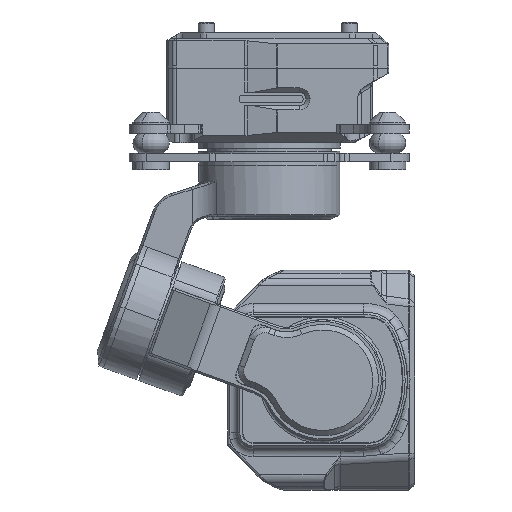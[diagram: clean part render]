
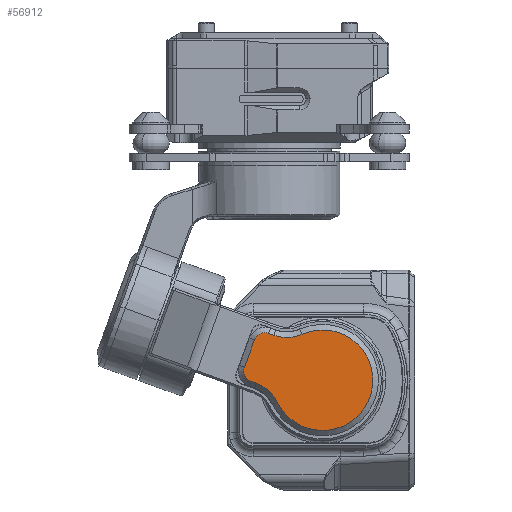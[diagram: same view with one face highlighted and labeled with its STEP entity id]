
A CAD part, front view. The second image highlights one B-rep face of the part: STEP entity #56912.
In plain terms, the highlighted planar face has unit normal (0, -1, 0).
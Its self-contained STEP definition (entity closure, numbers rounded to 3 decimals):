
#56844=AXIS2_PLACEMENT_3D('Plane Axis2P3D',#56841,#56842,#56843) ;
#56848=AXIS2_PLACEMENT_3D('Circle Axis2P3D',#56846,#56847,$) ;
#56864=AXIS2_PLACEMENT_3D('Circle Axis2P3D',#56862,#56863,$) ;
#56878=AXIS2_PLACEMENT_3D('Circle Axis2P3D',#56876,#56877,$) ;
#56892=AXIS2_PLACEMENT_3D('Circle Axis2P3D',#56890,#56891,$) ;
#56899=AXIS2_PLACEMENT_3D('Circle Axis2P3D',#56897,#56898,$) ;
#56841=CARTESIAN_POINT('Axis2P3D Location',(-10.762,-34.935,16.531)) ;
#56846=CARTESIAN_POINT('Axis2P3D Location',(-14.144,-34.935,24.11)) ;
#56850=CARTESIAN_POINT('Vertex',(-16.487,-34.935,17.674)) ;
#56852=CARTESIAN_POINT('Vertex',(-11.353,-34.935,17.855)) ;
#56855=CARTESIAN_POINT('Line Origine',(-16.969,-34.935,17.849)) ;
#56859=CARTESIAN_POINT('Vertex',(-17.451,-34.935,18.024)) ;
#56862=CARTESIAN_POINT('Axis2P3D Location',(-18.135,-34.935,16.145)) ;
#56866=CARTESIAN_POINT('Vertex',(-20.014,-34.935,16.829)) ;
#56869=CARTESIAN_POINT('Line Origine',(-20.921,-34.935,14.339)) ;
#56873=CARTESIAN_POINT('Vertex',(-21.827,-34.935,11.849)) ;
#56876=CARTESIAN_POINT('Axis2P3D Location',(-19.947,-34.935,11.165)) ;
#56880=CARTESIAN_POINT('Vertex',(-20.632,-34.935,9.285)) ;
#56883=CARTESIAN_POINT('Line Origine',(-20.15,-34.935,9.11)) ;
#56887=CARTESIAN_POINT('Vertex',(-19.668,-34.935,8.934)) ;
#56890=CARTESIAN_POINT('Axis2P3D Location',(-22.011,-34.935,2.498)) ;
#56894=CARTESIAN_POINT('Vertex',(-15.851,-34.935,5.495)) ;
#56897=CARTESIAN_POINT('Axis2P3D Location',(-7.624,-34.935,9.499)) ;
#56842=DIRECTION('Axis2P3D Direction',(0.,1.,0.)) ;
#56843=DIRECTION('Axis2P3D XDirection',(-0.408,0.,0.913)) ;
#56847=DIRECTION('Axis2P3D Direction',(0.,1.,0.)) ;
#56856=DIRECTION('Vector Direction',(-0.94,0.,0.342)) ;
#56863=DIRECTION('Axis2P3D Direction',(0.,1.,0.)) ;
#56870=DIRECTION('Vector Direction',(-0.342,0.,-0.94)) ;
#56877=DIRECTION('Axis2P3D Direction',(0.,1.,0.)) ;
#56884=DIRECTION('Vector Direction',(-0.94,0.,0.342)) ;
#56891=DIRECTION('Axis2P3D Direction',(0.,1.,0.)) ;
#56898=DIRECTION('Axis2P3D Direction',(0.,1.,0.)) ;
#56857=VECTOR('Line Direction',#56856,1.) ;
#56871=VECTOR('Line Direction',#56870,1.) ;
#56885=VECTOR('Line Direction',#56884,1.) ;
#56903=ORIENTED_EDGE('',*,*,#56854,.F.) ;
#56904=ORIENTED_EDGE('',*,*,#56861,.F.) ;
#56905=ORIENTED_EDGE('',*,*,#56868,.F.) ;
#56906=ORIENTED_EDGE('',*,*,#56875,.F.) ;
#56907=ORIENTED_EDGE('',*,*,#56882,.F.) ;
#56908=ORIENTED_EDGE('',*,*,#56889,.F.) ;
#56909=ORIENTED_EDGE('',*,*,#56896,.F.) ;
#56910=ORIENTED_EDGE('',*,*,#56901,.F.) ;
#56912=ADVANCED_FACE('Z-2Pro_GB.1',(#56911),#56845,.F.) ;
#56849=CIRCLE('generated circle',#56848,6.85) ;
#56865=CIRCLE('generated circle',#56864,2.) ;
#56879=CIRCLE('generated circle',#56878,2.) ;
#56893=CIRCLE('generated circle',#56892,6.85) ;
#56900=CIRCLE('generated circle',#56899,9.15) ;
#56854=EDGE_CURVE('',#56851,#56853,#56849,.F.) ;
#56861=EDGE_CURVE('',#56860,#56851,#56858,.F.) ;
#56868=EDGE_CURVE('',#56867,#56860,#56865,.T.) ;
#56875=EDGE_CURVE('',#56874,#56867,#56872,.F.) ;
#56882=EDGE_CURVE('',#56881,#56874,#56879,.T.) ;
#56889=EDGE_CURVE('',#56888,#56881,#56886,.T.) ;
#56896=EDGE_CURVE('',#56895,#56888,#56893,.F.) ;
#56901=EDGE_CURVE('',#56853,#56895,#56900,.T.) ;
#56902=EDGE_LOOP('',(#56903,#56904,#56905,#56906,#56907,#56908,#56909,#56910)) ;
#56911=FACE_OUTER_BOUND('',#56902,.T.) ;
#56858=LINE('Line',#56855,#56857) ;
#56872=LINE('Line',#56869,#56871) ;
#56886=LINE('Line',#56883,#56885) ;
#56845=PLANE('',#56844) ;
#56851=VERTEX_POINT('',#56850) ;
#56853=VERTEX_POINT('',#56852) ;
#56860=VERTEX_POINT('',#56859) ;
#56867=VERTEX_POINT('',#56866) ;
#56874=VERTEX_POINT('',#56873) ;
#56881=VERTEX_POINT('',#56880) ;
#56888=VERTEX_POINT('',#56887) ;
#56895=VERTEX_POINT('',#56894) ;
